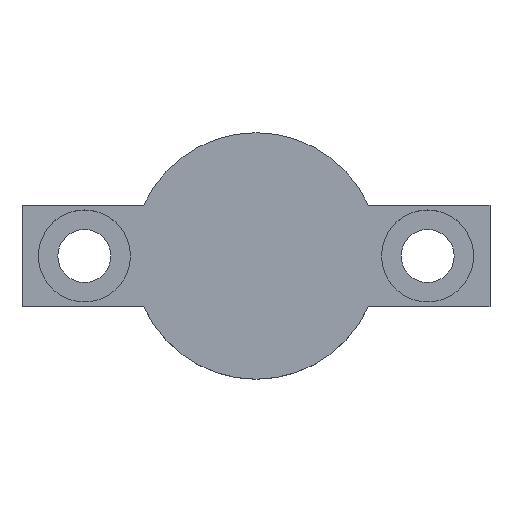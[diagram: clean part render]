
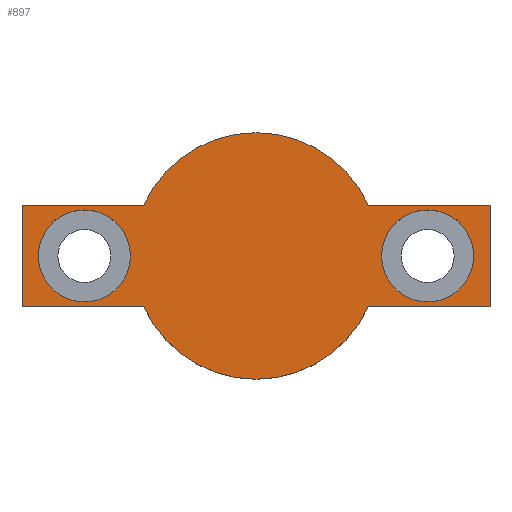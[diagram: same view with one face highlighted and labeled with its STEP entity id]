
A CAD part, top view. The second image highlights one B-rep face of the part: STEP entity #897.
In plain terms, the highlighted planar face has unit normal (0, 0, 1).
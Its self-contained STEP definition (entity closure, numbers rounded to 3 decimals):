
#424=DIRECTION('',(0.,-1.,0.));
#425=VECTOR('',#424,6.5);
#426=CARTESIAN_POINT('',(15.,3.25,4.));
#427=LINE('',#426,#425);
#445=DIRECTION('',(1.,0.,0.));
#446=VECTOR('',#445,7.799);
#447=CARTESIAN_POINT('',(7.201,3.25,4.));
#448=LINE('',#447,#446);
#466=CARTESIAN_POINT('',(0.,0.,4.));
#467=DIRECTION('',(0.,0.,-1.));
#468=DIRECTION('',(0.911,-0.411,0.));
#469=AXIS2_PLACEMENT_3D('',#466,#467,#468);
#474=DIRECTION('',(-1.,0.,0.));
#475=VECTOR('',#474,7.799);
#476=CARTESIAN_POINT('',(-7.201,-3.25,4.));
#477=LINE('',#476,#475);
#481=CARTESIAN_POINT('',(0.,0.,4.));
#482=DIRECTION('',(0.,0.,-1.));
#483=DIRECTION('',(-0.911,0.411,0.));
#484=AXIS2_PLACEMENT_3D('',#481,#482,#483);
#489=DIRECTION('',(-1.,0.,0.));
#490=VECTOR('',#489,7.799);
#491=CARTESIAN_POINT('',(15.,-3.25,4.));
#492=LINE('',#491,#490);
#496=CARTESIAN_POINT('',(-11.,0.,4.));
#497=DIRECTION('',(0.,0.,1.));
#498=DIRECTION('',(1.,0.,0.));
#499=AXIS2_PLACEMENT_3D('',#496,#497,#498);
#504=CARTESIAN_POINT('',(-11.,0.,4.));
#505=DIRECTION('',(0.,0.,1.));
#506=DIRECTION('',(-1.,0.,0.));
#507=AXIS2_PLACEMENT_3D('',#504,#505,#506);
#512=CARTESIAN_POINT('',(11.,0.,4.));
#513=DIRECTION('',(0.,0.,1.));
#514=DIRECTION('',(1.,0.,0.));
#515=AXIS2_PLACEMENT_3D('',#512,#513,#514);
#520=CARTESIAN_POINT('',(11.,0.,4.));
#521=DIRECTION('',(0.,0.,1.));
#522=DIRECTION('',(-1.,0.,0.));
#523=AXIS2_PLACEMENT_3D('',#520,#521,#522);
#542=DIRECTION('',(0.,1.,0.));
#543=VECTOR('',#542,6.5);
#544=CARTESIAN_POINT('',(-15.,-3.25,4.));
#545=LINE('',#544,#543);
#556=DIRECTION('',(1.,0.,0.));
#557=VECTOR('',#556,7.799);
#558=CARTESIAN_POINT('',(-15.,3.25,4.));
#559=LINE('',#558,#557);
#684=CARTESIAN_POINT('',(-7.201,-3.25,4.));
#686=VERTEX_POINT('',#684);
#687=CARTESIAN_POINT('',(7.201,-3.25,4.));
#688=VERTEX_POINT('',#687);
#691=CARTESIAN_POINT('',(-15.,-3.25,4.));
#692=VERTEX_POINT('',#691);
#695=CARTESIAN_POINT('',(15.,-3.25,4.));
#697=VERTEX_POINT('',#695);
#707=CARTESIAN_POINT('',(-15.,3.25,4.));
#708=VERTEX_POINT('',#707);
#709=CARTESIAN_POINT('',(-7.201,3.25,4.));
#710=VERTEX_POINT('',#709);
#711=CARTESIAN_POINT('',(7.201,3.25,4.));
#712=VERTEX_POINT('',#711);
#713=CARTESIAN_POINT('',(15.,3.25,4.));
#714=VERTEX_POINT('',#713);
#731=CARTESIAN_POINT('',(-8.05,0.,4.));
#733=VERTEX_POINT('',#731);
#735=CARTESIAN_POINT('',(-13.95,0.,4.));
#736=VERTEX_POINT('',#735);
#739=CARTESIAN_POINT('',(13.95,0.,4.));
#741=VERTEX_POINT('',#739);
#743=CARTESIAN_POINT('',(8.05,0.,4.));
#744=VERTEX_POINT('',#743);
#868=CARTESIAN_POINT('',(-7.201,-3.25,4.));
#869=DIRECTION('',(0.,0.,-1.));
#870=DIRECTION('',(-1.,0.,0.));
#871=AXIS2_PLACEMENT_3D('',#868,#869,#870);
#872=PLANE('',#871);
#873=ORIENTED_EDGE('',*,*,#754,.T.);
#874=ORIENTED_EDGE('',*,*,#773,.T.);
#876=ORIENTED_EDGE('',*,*,#875,.T.);
#878=ORIENTED_EDGE('',*,*,#877,.T.);
#879=ORIENTED_EDGE('',*,*,#860,.T.);
#880=ORIENTED_EDGE('',*,*,#849,.T.);
#881=ORIENTED_EDGE('',*,*,#835,.T.);
#882=ORIENTED_EDGE('',*,*,#821,.T.);
#883=EDGE_LOOP('',(#873,#874,#876,#878,#879,#880,#881,#882));
#884=FACE_OUTER_BOUND('',#883,.F.);
#886=ORIENTED_EDGE('',*,*,#885,.T.);
#888=ORIENTED_EDGE('',*,*,#887,.T.);
#889=EDGE_LOOP('',(#886,#888));
#890=FACE_BOUND('',#889,.F.);
#892=ORIENTED_EDGE('',*,*,#891,.T.);
#894=ORIENTED_EDGE('',*,*,#893,.T.);
#895=EDGE_LOOP('',(#892,#894));
#896=FACE_BOUND('',#895,.F.);
#470=CIRCLE('',#469,7.9);
#485=CIRCLE('',#484,7.9);
#500=CIRCLE('',#499,2.95);
#508=CIRCLE('',#507,2.95);
#516=CIRCLE('',#515,2.95);
#524=CIRCLE('',#523,2.95);
#754=EDGE_CURVE('',#688,#686,#470,.T.);
#773=EDGE_CURVE('',#686,#692,#477,.T.);
#821=EDGE_CURVE('',#697,#688,#492,.T.);
#835=EDGE_CURVE('',#714,#697,#427,.T.);
#849=EDGE_CURVE('',#712,#714,#448,.T.);
#860=EDGE_CURVE('',#710,#712,#485,.T.);
#875=EDGE_CURVE('',#692,#708,#545,.T.);
#877=EDGE_CURVE('',#708,#710,#559,.T.);
#885=EDGE_CURVE('',#733,#736,#500,.T.);
#887=EDGE_CURVE('',#736,#733,#508,.T.);
#891=EDGE_CURVE('',#741,#744,#516,.T.);
#893=EDGE_CURVE('',#744,#741,#524,.T.);
#897=ADVANCED_FACE('',(#884,#890,#896),#872,.F.);
